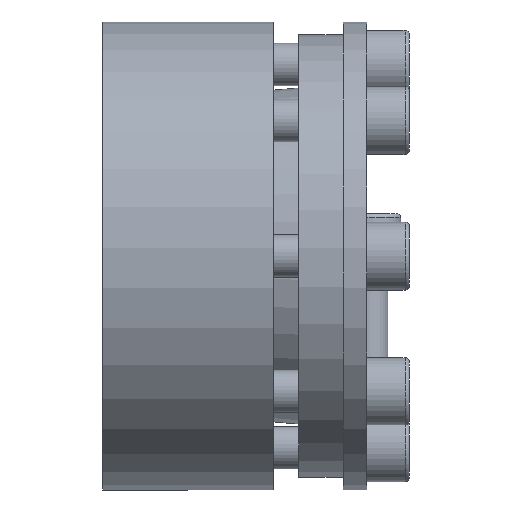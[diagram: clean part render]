
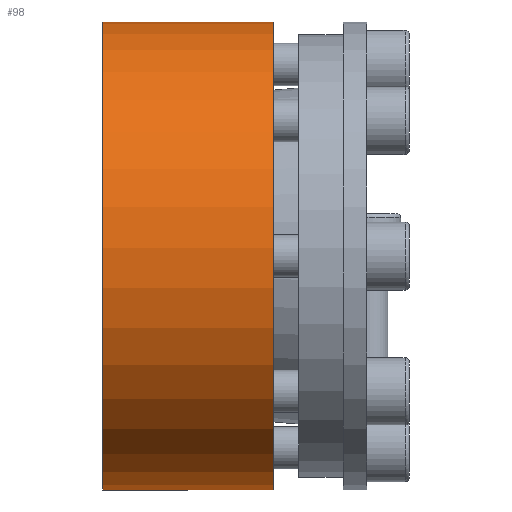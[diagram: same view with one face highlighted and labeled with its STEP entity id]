
A CAD part, left-side view. The second image highlights one B-rep face of the part: STEP entity #98.
In plain terms, the highlighted cylindrical face has radius 55 mm (diameter 110 mm), a partial arc.
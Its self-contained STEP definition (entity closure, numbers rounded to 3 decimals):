
#98 = ADVANCED_FACE( '', ( #225 ), #226, .T. );
#225 = FACE_OUTER_BOUND( '', #393, .T. );
#226 = CYLINDRICAL_SURFACE( '', #394, 55. );
#393 = EDGE_LOOP( '', ( #636, #637, #638, #639 ) );
#394 = AXIS2_PLACEMENT_3D( '', #640, #641, #642 );
#636 = ORIENTED_EDGE( '', *, *, #899, .F. );
#637 = ORIENTED_EDGE( '', *, *, #872, .T. );
#638 = ORIENTED_EDGE( '', *, *, #902, .T. );
#639 = ORIENTED_EDGE( '', *, *, #903, .T. );
#640 = CARTESIAN_POINT( '', ( 0., -60., 0. ) );
#641 = DIRECTION( '', ( 0., 1., 0. ) );
#642 = DIRECTION( '', ( 0., 0., -1. ) );
#872 = EDGE_CURVE( '', #1057, #1055, #1058, .F. );
#899 = EDGE_CURVE( '', #1057, #1102, #1103, .T. );
#902 = EDGE_CURVE( '', #1055, #1106, #1107, .T. );
#903 = EDGE_CURVE( '', #1106, #1102, #1108, .T. );
#1055 = VERTEX_POINT( '', #1365 );
#1057 = VERTEX_POINT( '', #1368 );
#1058 = LINE( '', #1369, #1370 );
#1102 = VERTEX_POINT( '', #1423 );
#1103 = CIRCLE( '', #1424, 55. );
#1106 = VERTEX_POINT( '', #1428 );
#1107 = CIRCLE( '', #1429, 55. );
#1108 = LINE( '', #1430, #1431 );
#1365 = CARTESIAN_POINT( '', ( 20.027, 62., 51.224 ) );
#1368 = CARTESIAN_POINT( '', ( 20.027, 22., 51.224 ) );
#1369 = CARTESIAN_POINT( '', ( 20.027, -60., 51.224 ) );
#1370 = VECTOR( '', #1580, 1000. );
#1423 = CARTESIAN_POINT( '', ( 22.06, 22., 50.382 ) );
#1424 = AXIS2_PLACEMENT_3D( '', #1626, #1627, #1628 );
#1428 = CARTESIAN_POINT( '', ( 22.06, 62., 50.382 ) );
#1429 = AXIS2_PLACEMENT_3D( '', #1630, #1631, #1632 );
#1430 = CARTESIAN_POINT( '', ( 22.06, -60., 50.382 ) );
#1431 = VECTOR( '', #1633, 1000. );
#1580 = DIRECTION( '', ( 0., -1., 0. ) );
#1626 = CARTESIAN_POINT( '', ( 0., 22., 0. ) );
#1627 = DIRECTION( '', ( 0., -1., 0. ) );
#1628 = DIRECTION( '', ( 0., 0., -1. ) );
#1630 = CARTESIAN_POINT( '', ( 0., 62., 0. ) );
#1631 = DIRECTION( '', ( 0., -1., 0. ) );
#1632 = DIRECTION( '', ( 0., 0., -1. ) );
#1633 = DIRECTION( '', ( 0., -1., 0. ) );
